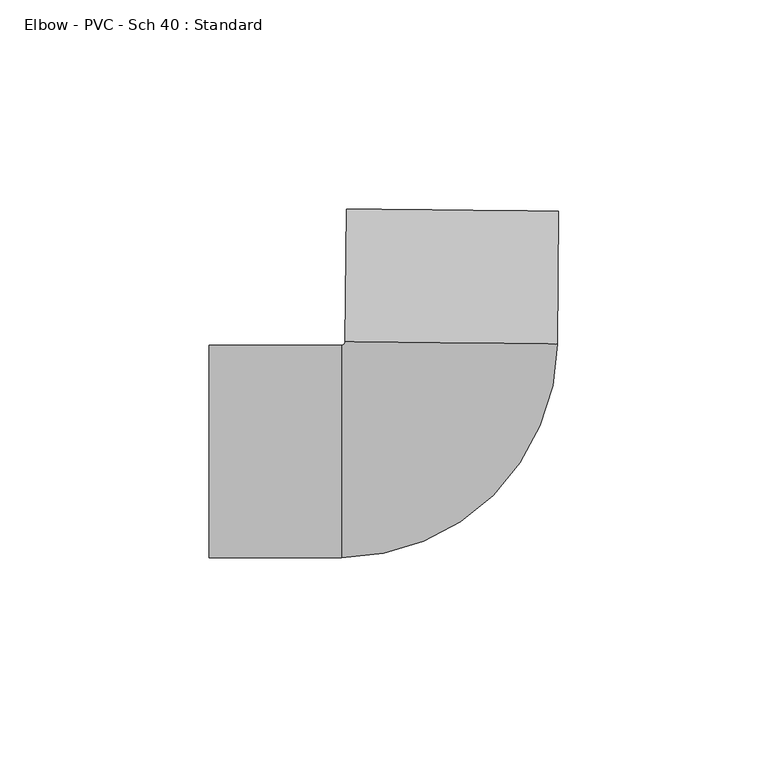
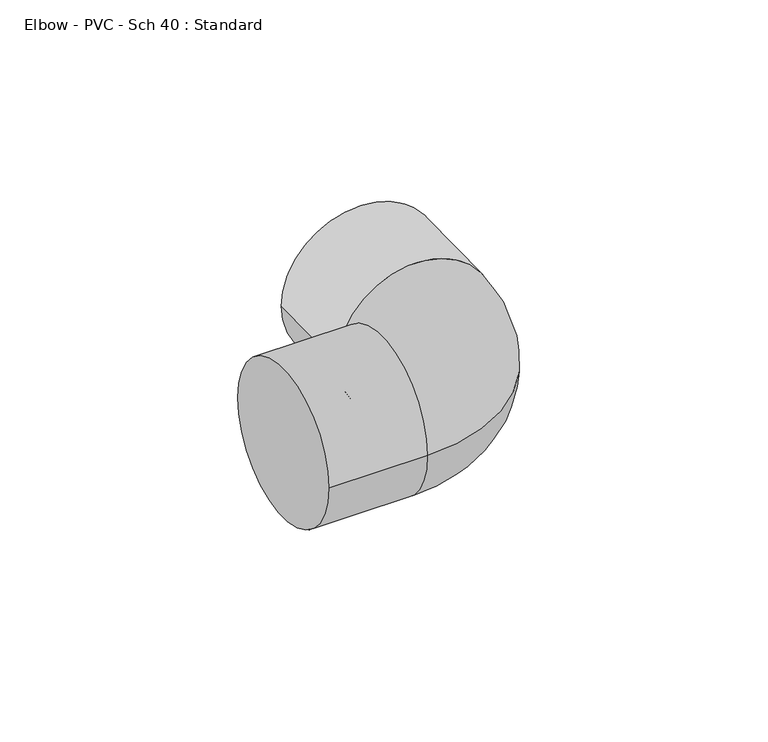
"""IFC4 building model written with IfcOpenShell, lengths in millimetres: pipe fitting geometry, Elbow - PVC - Sch 40 : Standard."""

import ifcopenshell
import ifcopenshell.guid

model = None  # the IFC model being written
_history = None  # IfcOwnerHistory: only IFC2X3 demands one
_inside = {}  # id of a spatial element -> (the spatial element, [elements in it])
_under = {}  # id of a project, library or spatial element -> (it, [spatial elements below it])
_declared = {}  # id of a project -> (the project, [libraries it declares])
_typed = {}  # id of a type object -> (the type object, [elements of that type])
_made_of = {}  # id of a material, layer set ... -> (it, [elements and type objects made of it])


def new_model(schema):
    """Start an empty IFC model of exactly this schema.

    Asked for "IFC4X3", IfcOpenShell would pick the latest addendum, in which some entities
    have other attributes; the version numbers below select the first issue.
    IFC2X3 requires an IfcOwnerHistory on every rooted entity: one is made here for all.
    """
    global model, _history
    if schema == "IFC4X3":
        model = ifcopenshell.file(schema_version=(4, 3, 0, 0))
    else:
        model = ifcopenshell.file(schema=schema)
    _inside.clear()
    _under.clear()
    _declared.clear()
    _typed.clear()
    _made_of.clear()
    _history = None
    if model.schema == "IFC2X3":
        org = make("IfcOrganization", Name="unknown")
        user = make(
            "IfcPersonAndOrganization",
            ThePerson=make("IfcPerson", FamilyName="unknown"),
            TheOrganization=org,
        )
        app = make(
            "IfcApplication",
            ApplicationDeveloper=org,
            Version="unknown",
            ApplicationFullName="unknown",
            ApplicationIdentifier="unknown",
        )
        _history = make(
            "IfcOwnerHistory",
            OwningUser=user,
            OwningApplication=app,
            ChangeAction="ADDED",
            CreationDate=0,
        )
    return model


def make(cls, **values):
    """One entity of the class cls with the attributes given. An attribute that is None is left unset."""
    return model.create_entity(
        cls, **{name: value for name, value in values.items() if value is not None}
    )


def rooted(cls, **values):
    """An entity with a GlobalId (a new one), such as an element, a storey or a relation."""
    return make(cls, GlobalId=ifcopenshell.guid.new(), OwnerHistory=_history, **values)


def si_unit(unit_type, name, prefix=None):
    """IfcSIUnit, for example si_unit("LENGTHUNIT", "METRE", prefix="MILLI")."""
    return make("IfcSIUnit", UnitType=unit_type, Prefix=prefix, Name=name)


def assignment(units):
    """IfcUnitAssignment: the units of a project."""
    return None if units is None else make("IfcUnitAssignment", Units=units)


def point(xyz):
    """IfcCartesianPoint."""
    return None if xyz is None else make("IfcCartesianPoint", Coordinates=xyz)


def direction(xyz):
    """IfcDirection."""
    return None if xyz is None else make("IfcDirection", DirectionRatios=xyz)


def frame(location, z_axis=None, x_axis=None):
    """IfcAxis2Placement3D, a coordinate frame: its origin and axes. An axis left out is left unset."""
    return make(
        "IfcAxis2Placement3D",
        Location=point(location),
        Axis=direction(z_axis),
        RefDirection=direction(x_axis),
    )


def origin():
    """The frame at (0, 0, 0) with its axes left unset."""
    return frame((0.0, 0.0, 0.0))


def place(relative_to, where):
    """IfcLocalPlacement: puts the frame where relative to a parent placement (None: the world)."""
    return make(
        "IfcLocalPlacement", PlacementRelTo=relative_to, RelativePlacement=where
    )


def context(
    kind, dimensions, precision=None, world=None, true_north=None, identifier=None
):
    """IfcGeometricRepresentationContext, for example the 3D "Model" context."""
    return make(
        "IfcGeometricRepresentationContext",
        ContextIdentifier=identifier,
        ContextType=kind,
        CoordinateSpaceDimension=dimensions,
        Precision=precision,
        WorldCoordinateSystem=world,
        TrueNorth=true_north,
    )


def project(units=None, contexts=None):
    """IfcProject with its units and contexts."""
    return rooted(
        "IfcProject",
        Name="project",
        RepresentationContexts=contexts,
        UnitsInContext=assignment(units),
    )


def spatial(cls, under=None, at=None, **own):
    """A site, building, storey or space (cls), placed at a placement, below another one or the project."""
    s = rooted(cls, ObjectPlacement=at, **own)
    if under is not None:
        _under.setdefault(under.id(), (under, []))[1].append(s)
    return s


def circle_curve(where, radius):
    """IfcCircle in the frame where."""
    return make("IfcCircle", Position=where, Radius=radius)


def ellipse_curve(where, semi_axis1, semi_axis2):
    """IfcEllipse in the frame where."""
    return make(
        "IfcEllipse", Position=where, SemiAxis1=semi_axis1, SemiAxis2=semi_axis2
    )


def trimmed(basis, trim1, trim2, sense, master):
    """IfcTrimmedCurve: the piece of a basis curve between two trims."""
    return make(
        "IfcTrimmedCurve",
        BasisCurve=basis,
        Trim1=trim1,
        Trim2=trim2,
        SenseAgreement=sense,
        MasterRepresentation=master,
    )


def shape(context_of_items, identifier, shape_type, items):
    """IfcShapeRepresentation: the items that make up one representation, for example the "Body"."""
    return make(
        "IfcShapeRepresentation",
        ContextOfItems=context_of_items,
        RepresentationIdentifier=identifier,
        RepresentationType=shape_type,
        Items=items,
    )


def source(mapping_origin, context_of_items, identifier, shape_type, items):
    """IfcRepresentationMap: a shape defined once, which mapped items show again and again."""
    return make(
        "IfcRepresentationMap",
        MappingOrigin=mapping_origin,
        MappedRepresentation=shape(context_of_items, identifier, shape_type, items),
    )


def transform(
    local_origin,
    x_axis=None,
    y_axis=None,
    z_axis=None,
    scale=None,
    scale2=None,
    scale3=None,
    uniform=True,
):
    """IfcCartesianTransformationOperator3D, or its non-uniform kind. x_axis, y_axis, z_axis: its Axis1, 2, 3."""
    if uniform:
        return make(
            "IfcCartesianTransformationOperator3D",
            Axis1=direction(x_axis),
            Axis2=direction(y_axis),
            LocalOrigin=point(local_origin),
            Scale=scale,
            Axis3=direction(z_axis),
        )
    return make(
        "IfcCartesianTransformationOperator3DnonUniform",
        Axis1=direction(x_axis),
        Axis2=direction(y_axis),
        LocalOrigin=point(local_origin),
        Scale=scale,
        Axis3=direction(z_axis),
        Scale2=scale2,
        Scale3=scale3,
    )


def mapped(mapping_source, mapping_target):
    """IfcMappedItem: shows the shape of a source again, moved by a transform."""
    return make(
        "IfcMappedItem", MappingSource=mapping_source, MappingTarget=mapping_target
    )


def made_of(thing, what):
    """Note that an element or type object is made of a material, layer set ...; save() writes the relation."""
    if what is not None:
        _made_of.setdefault(what.id(), (what, []))[1].append(thing)
    return thing


def element(
    cls,
    number,
    at=None,
    inside=None,
    cuts=None,
    type_object=None,
    material=None,
    context=None,
    identifier="Body",
    shape_type=None,
    held_by="IfcProductDefinitionShape",
    body=None,
    shapes=None,
    **own,
):
    """One element of the class cls, such as IfcWall. Its Tag is "e" and its number.

    at: its placement. inside: the storey or other place that contains it. cuts: it is an
    opening in that element (IfcRelVoidsElement). A single representation is given by context,
    identifier, shape_type and body (its items); several are given by shapes. held_by: the class
    of the entity that holds the representations. save() writes the other relations.
    """
    e = rooted(cls, Tag="e%d" % number, ObjectPlacement=at, **own)
    if body is not None:
        shapes = [shape(context, identifier, shape_type, body)]
    if shapes is not None:
        e.Representation = make(held_by, Representations=shapes)
    if inside is not None:
        _inside.setdefault(inside.id(), (inside, []))[1].append(e)
    if cuts is not None:
        rooted(
            "IfcRelVoidsElement", RelatingBuildingElement=cuts, RelatedOpeningElement=e
        )
    if type_object is not None:
        _typed.setdefault(type_object.id(), (type_object, []))[1].append(e)
    return made_of(e, material)


def aggregate(whole, parts):
    """IfcRelAggregates: a whole, such as a stair, and the parts it consists of."""
    return rooted("IfcRelAggregates", RelatingObject=whole, RelatedObjects=parts)


def save(model, path):
    """Write the relations noted so far, then the file.

    IfcRelAggregates (storeys below a building ...), IfcRelContainedInSpatialStructure (elements
    in a storey), IfcRelDefinesByType, IfcRelAssociatesMaterial and IfcRelDeclares: one each for
    every whole, place, type object, material and project.
    """
    for whole, parts in _under.values():
        aggregate(whole, parts)
    for where, things in _inside.values():
        rooted(
            "IfcRelContainedInSpatialStructure",
            RelatedElements=things,
            RelatingStructure=where,
        )
    for kind, things in _typed.values():
        rooted("IfcRelDefinesByType", RelatedObjects=things, RelatingType=kind)
    for what, things in _made_of.values():
        rooted("IfcRelAssociatesMaterial", RelatedObjects=things, RelatingMaterial=what)
    for by, libraries in _declared.values():
        rooted("IfcRelDeclares", RelatingContext=by, RelatedDefinitions=libraries)
    model.write(path)


def plane_surface(at):
    """IfcPlane: the flat surface through the origin of the frame at, square to its z axis."""
    return make("IfcPlane", Position=at)


def cylinder_surface(at, radius):
    """IfcCylindricalSurface: all points at the distance radius from the z axis of the frame at."""
    return make("IfcCylindricalSurface", Position=at, Radius=radius)


def revolved_surface(curve, axis_point, axis_direction):
    """IfcSurfaceOfRevolution: the curve turned about the line through axis_point along axis_direction."""
    return make(
        "IfcSurfaceOfRevolution",
        SweptCurve=make("IfcArbitraryOpenProfileDef", ProfileType="CURVE", Curve=curve),
        AxisPosition=make("IfcAxis1Placement", Location=point(axis_point), Axis=direction(axis_direction)),
    )


def advanced_brep(points, edges, surfaces, faces):
    """IfcAdvancedBrep: a solid bounded by faces that lie on surfaces and meet in shared edges.

    An edge is (start, end): straight between two places in points (the first is 0);
    or (start, end, curve); or (start, end, curve, False) where it runs against its curve.
    A face is (place in surfaces, loops), or (place, loops, False) where it looks against
    its surface's normal. A loop lists edges by number (the first is 1), with a minus sign
    where the edge is run from its end to its start. The first loop is the outer one.
    """
    corners = [point(p) for p in points]
    vertices = [make("IfcVertexPoint", VertexGeometry=c) for c in corners]
    made = []
    for start, end, *more in edges:
        made.append(
            make(
                "IfcEdgeCurve",
                EdgeStart=vertices[start],
                EdgeEnd=vertices[end],
                EdgeGeometry=more[0] if more else make("IfcPolyline", Points=[corners[start], corners[end]]),
                SameSense=more[1] if len(more) > 1 else True,
            )
        )
    hull = []
    for where, loops, *sense in faces:
        bounds = []
        for j, loop in enumerate(loops):
            ring = [make("IfcOrientedEdge", EdgeElement=made[abs(k) - 1], Orientation=k > 0) for k in loop]
            bounds.append(
                make(
                    "IfcFaceOuterBound" if j == 0 else "IfcFaceBound",
                    Bound=make("IfcEdgeLoop", EdgeList=ring),
                    Orientation=True,
                )
            )
        hull.append(make("IfcAdvancedFace", Bounds=bounds, FaceSurface=surfaces[where], SameSense=sense[0] if sense else True))
    return make("IfcAdvancedBrep", Outer=make("IfcClosedShell", CfsFaces=hull))


def elbow_pvc_sch_40_standard_2ea8bc13(model_context):
    return source(origin(), model_context, "Body", "AdvancedBrep", [
        advanced_brep(
        [(-57.6723195, -25.4, 0.0), (-57.6723195, 25.4, 0.0), (-25.9223195, -25.4, 0.0), (-25.9223195, 25.4, 0.0), (-25.1286126, 26.1854822, 0.0), (25.6686316, 25.6563443, 0.0), (25.9993428, 57.4046219, 0.0), (-24.7979013, 57.9337598, 0.0)],
        [
            (0, 1, circle_curve(frame((-57.6723195, 0.0, 0.0), z_axis=(-1.0, 0.0, 0.0), x_axis=(0.0, 1.0, 0.0)), 25.4)),
            (1, 0, circle_curve(frame((-57.6723195, 0.0, 0.0), z_axis=(-1.0, 0.0, 0.0), x_axis=(0.0, 1.0, 0.0)), 25.4)),
            (0, 2),
            (2, 3, circle_curve(frame((-25.9223195, 0.0, 0.0), z_axis=(-1.0, 0.0, 0.0), x_axis=(0.0, 1.0, 0.0)), 25.4)),
            (3, 1),
            (3, 2, circle_curve(frame((-25.9223195, 0.0, 0.0), z_axis=(-1.0, 0.0, 0.0), x_axis=(0.0, 1.0, 0.0)), 25.4)),
            (4, 3, circle_curve(frame((-25.9223195, 26.19375, 0.0), z_axis=(0.0, 0.0, -1.0), x_axis=(0.0, -1.0, 0.0)), 0.79375)),
            (2, 5, circle_curve(frame((-25.9223195, 26.19375, 0.0), z_axis=(0.0, 0.0, 1.0), x_axis=(0.0, -1.0, 0.0)), 51.59375)),
            (5, 4, circle_curve(frame((0.2700095, 25.9209132, 0.0), z_axis=(-0.010416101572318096, -0.9999457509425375, 0.0), x_axis=(-0.9999457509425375, 0.010416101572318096, 0.0)), 25.4)),
            (4, 5, circle_curve(frame((0.2700095, 25.9209132, 0.0), z_axis=(-0.010416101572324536, -0.9999457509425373, 0.0), x_axis=(-0.9999457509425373, 0.010416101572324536, 0.0)), 25.4)),
            (6, 7, circle_curve(frame((0.6007207, 57.6691908, 0.0), z_axis=(0.010416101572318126, 0.9999457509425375, 0.0), x_axis=(-0.9999457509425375, 0.010416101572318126, 0.0)), 25.4)),
            (7, 6, circle_curve(frame((0.6007207, 57.6691908, 0.0), z_axis=(0.010416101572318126, 0.9999457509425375, 0.0), x_axis=(-0.9999457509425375, 0.010416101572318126, 0.0)), 25.4)),
            (5, 6),
            (7, 4),
        ],
        [
            plane_surface(frame((-57.6723195, 0.0, 0.0), z_axis=(-1.0, 0.0, 0.0), x_axis=(0.0, 0.0, 1.0))),
            cylinder_surface(frame((-57.6723195, 0.0, 0.0), z_axis=(-1.0, 0.0, 0.0), x_axis=(0.0, 1.0, 0.0)), 25.4),
            revolved_surface(trimmed(ellipse_curve(frame((-25.9223195, 0.0, 0.0), z_axis=(-1.0, 0.0, 0.0), x_axis=(0.0, 1.0, 0.0)), 25.4, 25.4), [point((-25.9223195, -25.4, 0.0))], [point((-25.9223195, 25.4, 0.0))], True, "CARTESIAN"), (-25.9223195, 26.19375, 0.0), (0.0, 0.0, 1.0)),
            revolved_surface(trimmed(ellipse_curve(frame((-25.9223195, 0.0, 0.0), z_axis=(-1.0, 0.0, 0.0), x_axis=(0.0, 1.0, 0.0)), 25.4, 25.4), [point((-25.9223195, 25.4, 0.0))], [point((-25.9223195, -25.4, 0.0))], True, "CARTESIAN"), (-25.9223195, 26.19375, 0.0), (0.0, 0.0, 1.0)),
            plane_surface(frame((0.6007207, 57.6691908, 0.0), z_axis=(0.010416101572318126, 0.9999457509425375, 0.0), x_axis=(0.0, 0.0, 1.0))),
            cylinder_surface(frame((0.2700095, 25.9209132, 0.0), z_axis=(-0.010416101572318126, -0.9999457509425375, 0.0), x_axis=(-0.9999457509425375, 0.010416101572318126, 0.0)), 25.4),
        ],
        [
            (0, [[1, 2]]),
            (1, [[-1, 3, 4, 5]]),
            (1, [[-2, -5, 6, -3]]),
            (2, [[7, -4, 8, 9]]),
            (3, [[-8, -6, -7, 10]]),
            (4, [[11, 12]]),
            (5, [[-9, 13, -12, 14]]),
            (5, [[-10, -14, -11, -13]]),
        ],
    ),
    ])


if __name__ == "__main__":
    model = new_model("IFC4")
    model_context = context("Model", 3, world=origin())
    ifc_project = project(units=[si_unit("LENGTHUNIT", "METRE", prefix="MILLI")], contexts=[model_context])
    site = spatial("IfcSite", under=ifc_project)
    building = spatial("IfcBuilding", under=site)
    placement = place(None, origin())
    elbow_pvc_sch_40_standard_shape = elbow_pvc_sch_40_standard_2ea8bc13(model_context)
    element("IfcPipeFitting", 1, ObjectType="Elbow - PVC - Sch 40 : Standard", at=placement, inside=building, context=model_context, shape_type="MappedRepresentation", body=[
        mapped(elbow_pvc_sch_40_standard_shape, transform((0.0, 0.0, 0.0), x_axis=(1.0, 0.0, 0.0), y_axis=(0.0, 1.0, 0.0), z_axis=(0.0, 0.0, 1.0))),
    ])
    save(model, "model.ifc")
